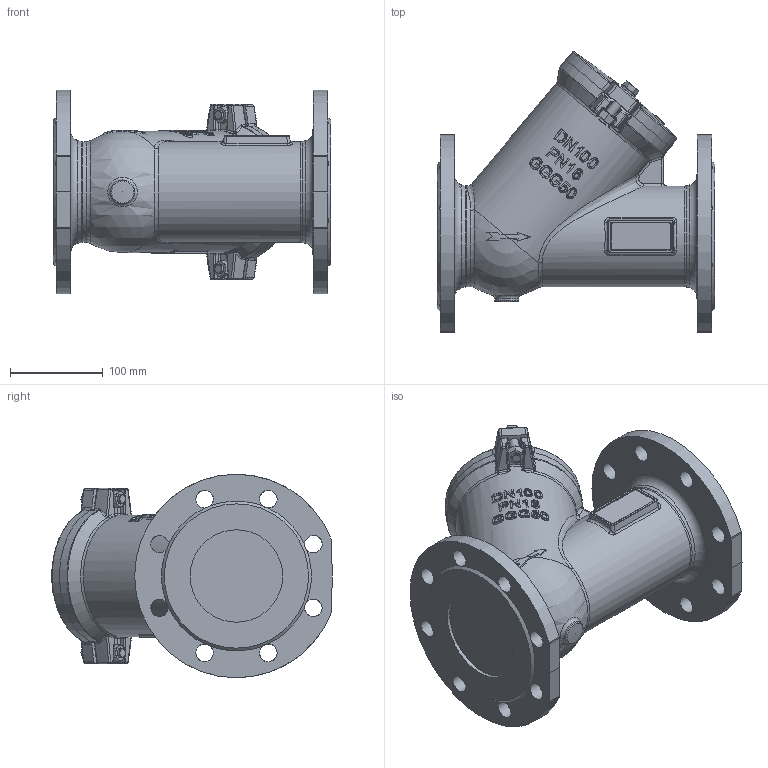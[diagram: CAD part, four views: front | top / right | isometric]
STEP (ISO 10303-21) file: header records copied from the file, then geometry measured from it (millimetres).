
FILE_DESCRIPTION (( 'STEP AP214' ), '1' );
FILE_NAME ('DN100.STEP', '2026-09-15T11:08:31', ( '' ), ( '' ), 'SwSTEP 2.0', 'SolidWorks 2024', '' );
FILE_SCHEMA (( 'AUTOMOTIVE_DESIGN' ));
Length unit declared in the file: millimetre
Products named in the file (1): DN100
Bounding box: 300 x 303.08 x 219.99 mm (x, y, z)
Volume: 5943671.3 mm3; surface area: 344301.3 mm2
Topology: 3 solids, 6 shells, 949 faces, 2496 edges, 1579 vertices
Faces by surface type: bspline 571, cylinder 166, plane 121, cone 52, torus 21, sphere 18
Full cylindrical faces by diameter (mm): 10 x4, 11 x2, 19 x16, 20 x2, 26 x1, 100 x2, 109 x1, 148 x1
Entity records: 57740 total; most frequent: CARTESIAN_POINT 30583, ORIENTED_EDGE 4786, EDGE_CURVE 2393, DIRECTION 1810, B_SPLINE_CURVE_WITH_KNOTS 1654, VERTEX_POINT 1535, EDGE_LOOP 1064, FACE_OUTER_BOUND 985
